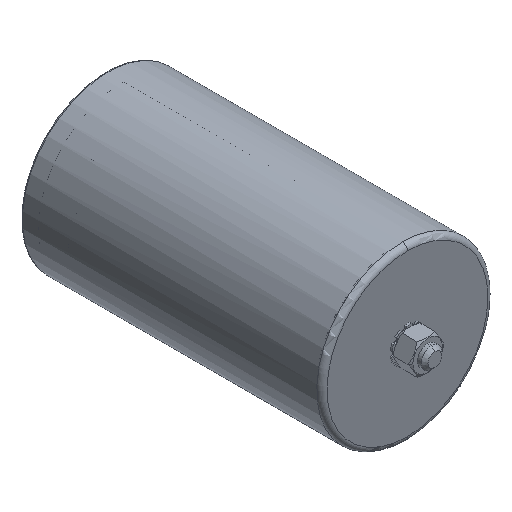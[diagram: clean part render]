
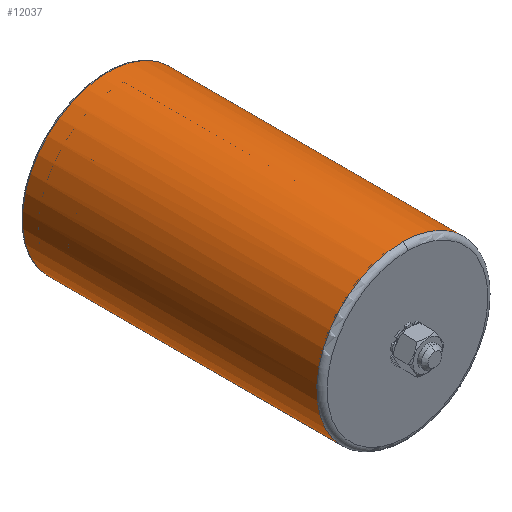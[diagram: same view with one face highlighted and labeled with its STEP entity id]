
A CAD part, isometric view. The second image highlights one B-rep face of the part: STEP entity #12037.
In plain terms, the highlighted cylindrical face has radius 50 mm (diameter 100 mm), a partial arc.
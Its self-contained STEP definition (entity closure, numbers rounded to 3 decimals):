
#122 = DIRECTION ( 'NONE',  ( 0., 0., 1. ) ) ;
#567 = VECTOR ( 'NONE', #4857, 1000. ) ;
#578 = EDGE_CURVE ( 'NONE', #6811, #1679, #7904, .T. ) ;
#985 = DIRECTION ( 'NONE',  ( 0., 1., 0. ) ) ;
#1561 = CARTESIAN_POINT ( 'NONE',  ( -35.355, 3., -35.355 ) ) ;
#1679 = VERTEX_POINT ( 'NONE', #9631 ) ;
#1742 = CYLINDRICAL_SURFACE ( 'NONE', #8336, 50. ) ;
#1822 = DIRECTION ( 'NONE',  ( 0., 1., 0. ) ) ;
#1948 = CARTESIAN_POINT ( 'NONE',  ( 0., 3., 0. ) ) ;
#2469 = DIRECTION ( 'NONE',  ( 0., 1., 0. ) ) ;
#2480 = AXIS2_PLACEMENT_3D ( 'NONE', #8018, #3249, #6672 ) ;
#2708 = ORIENTED_EDGE ( 'NONE', *, *, #578, .T. ) ;
#2832 = CARTESIAN_POINT ( 'NONE',  ( 0., 3., 0. ) ) ;
#2868 = EDGE_CURVE ( 'NONE', #4120, #6811, #4814, .T. ) ;
#3196 = CIRCLE ( 'NONE', #10185, 50. ) ;
#3249 = DIRECTION ( 'NONE',  ( 0., -1., 0. ) ) ;
#3360 = CARTESIAN_POINT ( 'NONE',  ( 35.355, 166., 35.355 ) ) ;
#3776 = CARTESIAN_POINT ( 'NONE',  ( 35.355, 3., 35.355 ) ) ;
#3956 = CARTESIAN_POINT ( 'NONE',  ( 35.355, 175., 35.355 ) ) ;
#4120 = VERTEX_POINT ( 'NONE', #3776 ) ;
#4659 = LINE ( 'NONE', #8483, #567 ) ;
#4814 = LINE ( 'NONE', #3360, #8321 ) ;
#4857 = DIRECTION ( 'NONE',  ( 0., 1., 0. ) ) ;
#4866 = AXIS2_PLACEMENT_3D ( 'NONE', #1948, #8733, #122 ) ;
#4952 = EDGE_CURVE ( 'NONE', #11948, #8831, #3196, .T. ) ;
#5052 = EDGE_CURVE ( 'NONE', #11948, #1679, #4659, .T. ) ;
#5174 = ORIENTED_EDGE ( 'NONE', *, *, #6810, .T. ) ;
#5485 = CARTESIAN_POINT ( 'NONE',  ( 0., 3., 50. ) ) ;
#5577 = CARTESIAN_POINT ( 'NONE',  ( 0., 166., 0. ) ) ;
#5833 = DIRECTION ( 'NONE',  ( 0.707, 0., 0.707 ) ) ;
#6672 = DIRECTION ( 'NONE',  ( -0.707, 0., -0.707 ) ) ;
#6810 = EDGE_CURVE ( 'NONE', #8831, #4120, #10242, .T. ) ;
#6811 = VERTEX_POINT ( 'NONE', #3956 ) ;
#7904 = CIRCLE ( 'NONE', #2480, 50. ) ;
#8018 = CARTESIAN_POINT ( 'NONE',  ( 0., 175., 0. ) ) ;
#8083 = ORIENTED_EDGE ( 'NONE', *, *, #2868, .T. ) ;
#8302 = DIRECTION ( 'NONE',  ( 0., 0., 1. ) ) ;
#8321 = VECTOR ( 'NONE', #2469, 1000. ) ;
#8336 = AXIS2_PLACEMENT_3D ( 'NONE', #5577, #985, #5833 ) ;
#8483 = CARTESIAN_POINT ( 'NONE',  ( -35.355, 166., -35.355 ) ) ;
#8525 = FACE_OUTER_BOUND ( 'NONE', #9952, .T. ) ;
#8733 = DIRECTION ( 'NONE',  ( 0., 1., 0. ) ) ;
#8831 = VERTEX_POINT ( 'NONE', #5485 ) ;
#9195 = ORIENTED_EDGE ( 'NONE', *, *, #4952, .T. ) ;
#9631 = CARTESIAN_POINT ( 'NONE',  ( -35.355, 175., -35.355 ) ) ;
#9952 = EDGE_LOOP ( 'NONE', ( #12040, #9195, #5174, #8083, #2708 ) ) ;
#10185 = AXIS2_PLACEMENT_3D ( 'NONE', #2832, #1822, #8302 ) ;
#10242 = CIRCLE ( 'NONE', #4866, 50. ) ;
#11948 = VERTEX_POINT ( 'NONE', #1561 ) ;
#12037 = ADVANCED_FACE ( 'NONE', ( #8525 ), #1742, .T. ) ;
#12040 = ORIENTED_EDGE ( 'NONE', *, *, #5052, .F. ) ;
